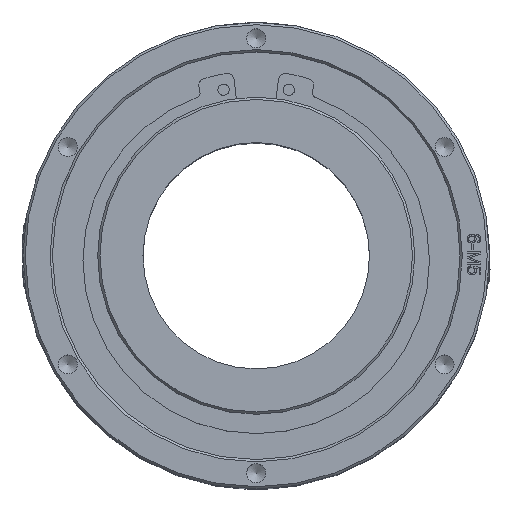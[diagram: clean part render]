
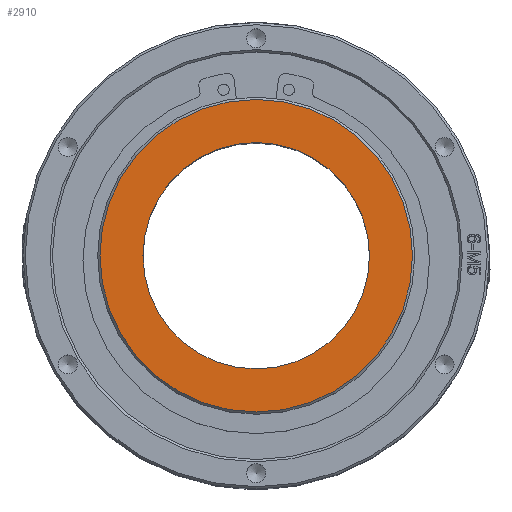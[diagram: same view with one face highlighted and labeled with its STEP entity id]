
A CAD part, top view. The second image highlights one B-rep face of the part: STEP entity #2910.
In plain terms, the highlighted planar face has unit normal (0, 0, 1).
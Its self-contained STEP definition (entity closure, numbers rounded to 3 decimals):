
#467=FACE_BOUND('',#8407,.T.);
#468=FACE_BOUND('',#8408,.T.);
#676=CIRCLE('',#29392,25.);
#692=CIRCLE('',#29412,34.5);
#1229=PLANE('',#29413);
#2910=ADVANCED_FACE('',(#467,#468),#1229,.T.);
#8407=EDGE_LOOP('',(#13917));
#8408=EDGE_LOOP('',(#13918));
#13917=ORIENTED_EDGE('',*,*,#23282,.F.);
#13918=ORIENTED_EDGE('',*,*,#23304,.T.);
#19563=VERTEX_POINT('',#52355);
#19584=VERTEX_POINT('',#52402);
#23282=EDGE_CURVE('',#19563,#19563,#676,.T.);
#23304=EDGE_CURVE('',#19584,#19584,#692,.T.);
#29392=AXIS2_PLACEMENT_3D('',#52354,#31997,#31998);
#29412=AXIS2_PLACEMENT_3D('',#52401,#32043,#32044);
#29413=AXIS2_PLACEMENT_3D('',#52403,#32045,#32046);
#31997=DIRECTION('',(0.,0.,1.));
#31998=DIRECTION('',(1.,0.,0.));
#32043=DIRECTION('',(0.,0.,1.));
#32044=DIRECTION('',(1.,0.,0.));
#32045=DIRECTION('',(0.,0.,1.));
#32046=DIRECTION('',(1.,0.,0.));
#52354=CARTESIAN_POINT('',(0.,0.,88.5));
#52355=CARTESIAN_POINT('',(25.,0.,88.5));
#52401=CARTESIAN_POINT('',(0.,0.,
88.5));
#52402=CARTESIAN_POINT('',(34.5,0.,88.5));
#52403=CARTESIAN_POINT('',(0.,0.,
88.5));
